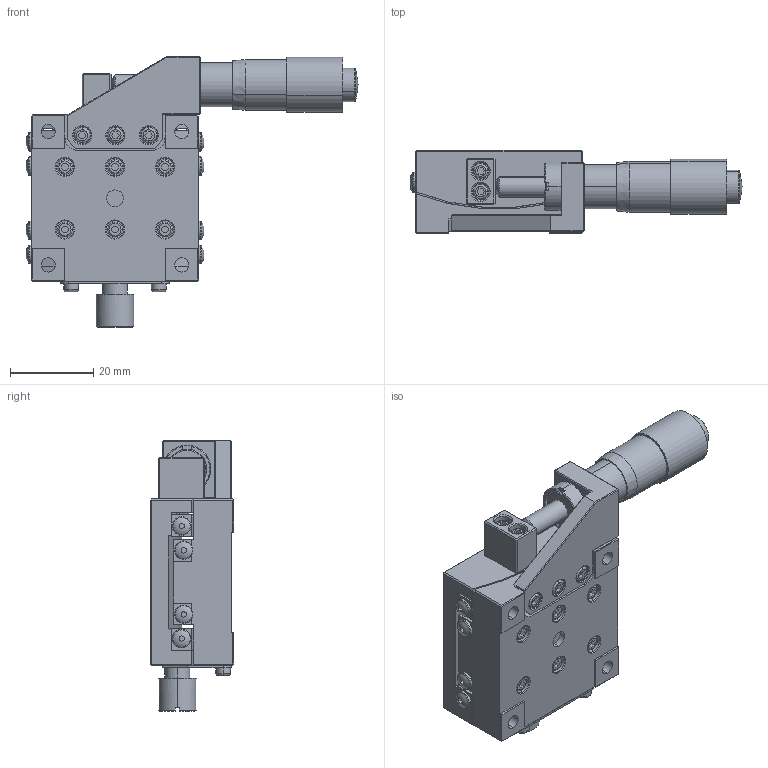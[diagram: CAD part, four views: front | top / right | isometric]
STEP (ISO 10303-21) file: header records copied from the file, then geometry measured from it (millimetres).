
FILE_DESCRIPTION (( 'STEP AP203' ), '1' );
FILE_NAME ('PT-SD4007-L.STEP', '2026-09-20T09:37:33', ( '' ), ( '' ), 'SwSTEP 2.0', 'SolidWorks 2025', '' );
FILE_SCHEMA (( 'CONFIG_CONTROL_DESIGN' ));
Length unit declared in the file: millimetre
Products named in the file (5): GWX40-40____-0.STEP_默认<按加工>; GWX40-C40H20-L.STEP; PT-SD4007-L; GWX40-60______.STEP_默认<按加工>; GWX40-40____.STEP_默认<按加工>
Assembly tree (4 placements, depth 3):
  PT-SD4007-L
    GWX40-C40H20-L.STEP
      GWX40-40____.STEP_默认<按加工>
      GWX40-40____-0.STEP_默认<按加工>
      GWX40-60______.STEP_默认<按加工>
Bounding box: 79.65 x 20 x 65 mm (x, y, z)
Volume: 35333.1 mm3; surface area: 22909.4 mm2
Topology: 11 solids, 11 shells, 755 faces, 1816 edges, 1133 vertices
Faces by surface type: plane 402, cylinder 198, cone 86, torus 60, sphere 9
Entity records: 23252 total; most frequent: CARTESIAN_POINT 4831, DIRECTION 3901, ORIENTED_EDGE 3574, EDGE_CURVE 1787, AXIS2_PLACEMENT_3D 1417, VERTEX_POINT 1131, LINE 1067, VECTOR 1067
